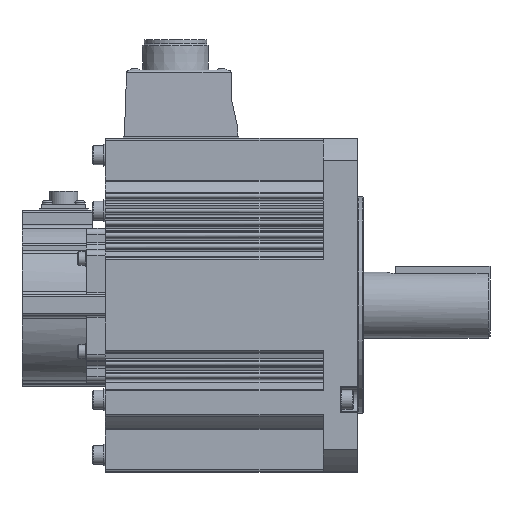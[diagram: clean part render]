
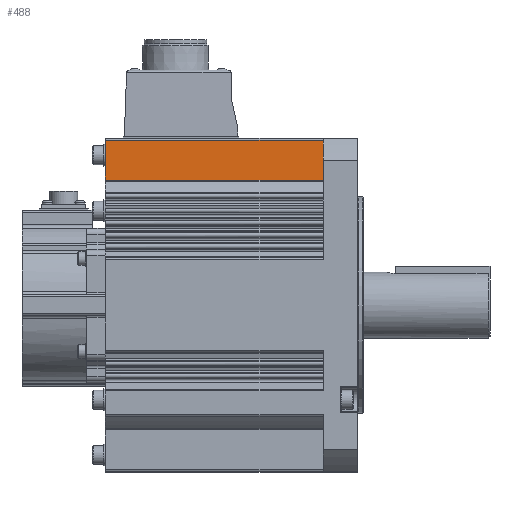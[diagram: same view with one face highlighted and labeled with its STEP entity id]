
A CAD part, top view. The second image highlights one B-rep face of the part: STEP entity #488.
In plain terms, the highlighted planar face has unit normal (0, 0, 1).
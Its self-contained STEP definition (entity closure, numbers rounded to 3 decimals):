
#488 = ADVANCED_FACE( '', ( #1643 ), #1644, .F. );
#1643 = FACE_OUTER_BOUND( '', #3120, .T. );
#1644 = PLANE( '', #3121 );
#3120 = EDGE_LOOP( '', ( #6782, #6783, #6784, #6785 ) );
#3121 = AXIS2_PLACEMENT_3D( '', #6786, #6787, #6788 );
#6782 = ORIENTED_EDGE( '', *, *, #8969, .T. );
#6783 = ORIENTED_EDGE( '', *, *, #9375, .F. );
#6784 = ORIENTED_EDGE( '', *, *, #9376, .F. );
#6785 = ORIENTED_EDGE( '', *, *, #9377, .T. );
#6786 = CARTESIAN_POINT( '', ( -18., 87.003, 58.8 ) );
#6787 = DIRECTION( '', ( 0., 0., -1. ) );
#6788 = DIRECTION( '', ( -1., 0., 0. ) );
#8969 = EDGE_CURVE( '', #11000, #10998, #11001, .T. );
#9375 = EDGE_CURVE( '', #11709, #10998, #11711, .T. );
#9376 = EDGE_CURVE( '', #11712, #11709, #11713, .T. );
#9377 = EDGE_CURVE( '', #11712, #11000, #11714, .T. );
#10998 = VERTEX_POINT( '', #14154 );
#11000 = VERTEX_POINT( '', #14156 );
#11001 = LINE( '', #14157, #14158 );
#11709 = VERTEX_POINT( '', #15134 );
#11711 = LINE( '', #15136, #15137 );
#11712 = VERTEX_POINT( '', #15138 );
#11713 = LINE( '', #15139, #15140 );
#11714 = LINE( '', #15141, #15142 );
#14154 = CARTESIAN_POINT( '', ( -133., 65.915, 58.8 ) );
#14156 = CARTESIAN_POINT( '', ( -133., 87.003, 58.8 ) );
#14157 = CARTESIAN_POINT( '', ( -133., 87.003, 58.8 ) );
#14158 = VECTOR( '', #17016, 1000. );
#15134 = CARTESIAN_POINT( '', ( -18., 65.915, 58.8 ) );
#15136 = CARTESIAN_POINT( '', ( -18., 65.915, 58.8 ) );
#15137 = VECTOR( '', #17799, 1000. );
#15138 = CARTESIAN_POINT( '', ( -18., 87.003, 58.8 ) );
#15139 = CARTESIAN_POINT( '', ( -18., 87.003, 58.8 ) );
#15140 = VECTOR( '', #17800, 1000. );
#15141 = CARTESIAN_POINT( '', ( -18., 87.003, 58.8 ) );
#15142 = VECTOR( '', #17801, 1000. );
#17016 = DIRECTION( '', ( 0., -1., 0. ) );
#17799 = DIRECTION( '', ( -1., 0., 0. ) );
#17800 = DIRECTION( '', ( 0., -1., 0. ) );
#17801 = DIRECTION( '', ( -1., 0., 0. ) );
